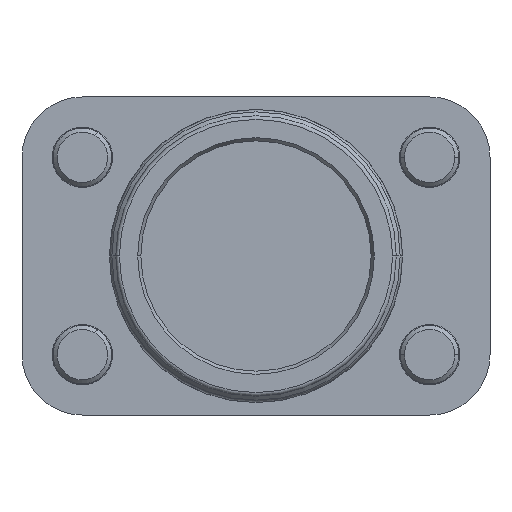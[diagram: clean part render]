
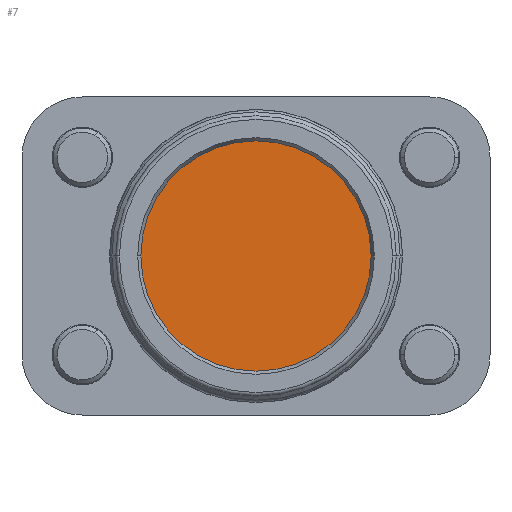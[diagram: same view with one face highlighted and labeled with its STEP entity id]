
A CAD part, front view. The second image highlights one B-rep face of the part: STEP entity #7.
In plain terms, the highlighted planar face has unit normal (0, -1, 0).
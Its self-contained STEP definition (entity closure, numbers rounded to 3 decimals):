
#7 = ADVANCED_FACE ( 'NONE', ( #110 ), #1627, .T. ) ;
#110 = FACE_OUTER_BOUND ( 'NONE', #1949, .T. ) ;
#729 = ORIENTED_EDGE ( 'NONE', *, *, #12671, .T. ) ;
#1322 = CARTESIAN_POINT ( 'NONE',  ( 0., 0., 0. ) ) ;
#1627 = PLANE ( 'NONE',  #10634 ) ;
#1949 = EDGE_LOOP ( 'NONE', ( #8695, #729 ) ) ;
#2584 = DIRECTION ( 'NONE',  ( 0., 0., -1. ) ) ;
#3513 = CARTESIAN_POINT ( 'NONE',  ( 0., 0., 0. ) ) ;
#4803 = CARTESIAN_POINT ( 'NONE',  ( 0., 0., -31.5 ) ) ;
#5348 = DIRECTION ( 'NONE',  ( 0., -1., 0. ) ) ;
#5409 = DIRECTION ( 'NONE',  ( 0., -1., 0. ) ) ;
#5559 = DIRECTION ( 'NONE',  ( 0., -1., 0. ) ) ;
#6052 = AXIS2_PLACEMENT_3D ( 'NONE', #1322, #5348, #8337 ) ;
#8337 = DIRECTION ( 'NONE',  ( 0., 0., -1. ) ) ;
#8604 = CARTESIAN_POINT ( 'NONE',  ( 0., 0., 0. ) ) ;
#8695 = ORIENTED_EDGE ( 'NONE', *, *, #9020, .T. ) ;
#9020 = EDGE_CURVE ( 'NONE', #11858, #9461, #11664, .T. ) ;
#9461 = VERTEX_POINT ( 'NONE', #10374 ) ;
#10374 = CARTESIAN_POINT ( 'NONE',  ( 0., 0., 31.5 ) ) ;
#10634 = AXIS2_PLACEMENT_3D ( 'NONE', #8604, #5559, #2584 ) ;
#11222 = AXIS2_PLACEMENT_3D ( 'NONE', #3513, #5409, #12404 ) ;
#11664 = CIRCLE ( 'NONE', #6052, 31.5 ) ;
#11766 = CIRCLE ( 'NONE', #11222, 31.5 ) ;
#11858 = VERTEX_POINT ( 'NONE', #4803 ) ;
#12404 = DIRECTION ( 'NONE',  ( 0., 0., -1. ) ) ;
#12671 = EDGE_CURVE ( 'NONE', #9461, #11858, #11766, .T. ) ;
